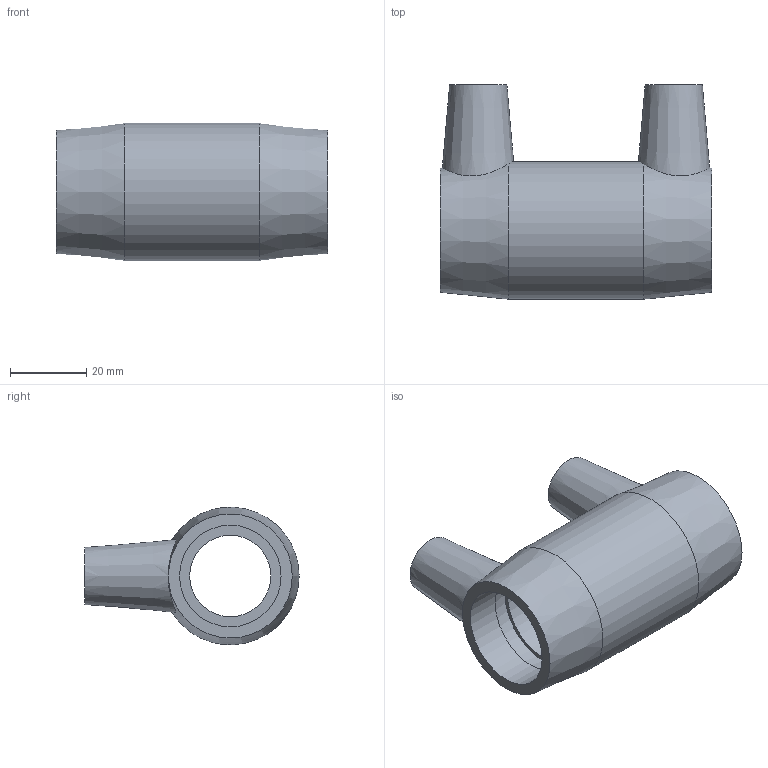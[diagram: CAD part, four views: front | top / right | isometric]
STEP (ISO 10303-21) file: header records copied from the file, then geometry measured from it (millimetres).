
FILE_DESCRIPTION(/* description */ ('PLASSON CTS COUPLER 3/4'''''),/* implementation_level */ '2;1');
FILE_NAME(/* name */ 'C:\Dropbox\KIMPROJECTS-Inventor 2019\99-16-3568-Processing Inch\ASTM ElectroFusion 2021\5901U\5901U004007.ipt.stp',/* time_stamp */ '2021-08-30T09:49:26+03:00',/* author */ ('KIM'),/* organization */ (''),/* preprocessor_version */ 'ST-DEVELOPER v17.2',/* originating_system */ 'Autodesk Inventor 2019',/* authorisation */ '');
FILE_SCHEMA (('AUTOMOTIVE_DESIGN { 1 0 10303 214 3 1 1 }'));
Length unit declared in the file: inch
Products named in the file (1): 5901U004007
Bounding box: 71.12 x 56.13 x 36.01 mm (x, y, z)
Volume: 37416.5 mm3; surface area: 18287.1 mm2
Topology: 1 solids, 1 shells, 30 faces, 68 edges, 48 vertices
Faces by surface type: plane 12, cylinder 10, cone 8
Full cylindrical faces by diameter (mm): 4 x2, 10 x2, 21.28 x1, 26.6 x4, 36.068 x1
Entity records: 999 total; most frequent: CARTESIAN_POINT 235, DIRECTION 166, ORIENTED_EDGE 136, AXIS2_PLACEMENT_3D 75, EDGE_CURVE 68, VERTEX_POINT 48, CIRCLE 44, EDGE_LOOP 40
